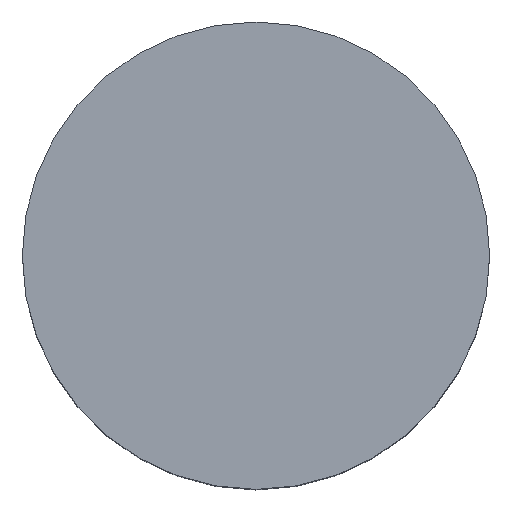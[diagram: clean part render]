
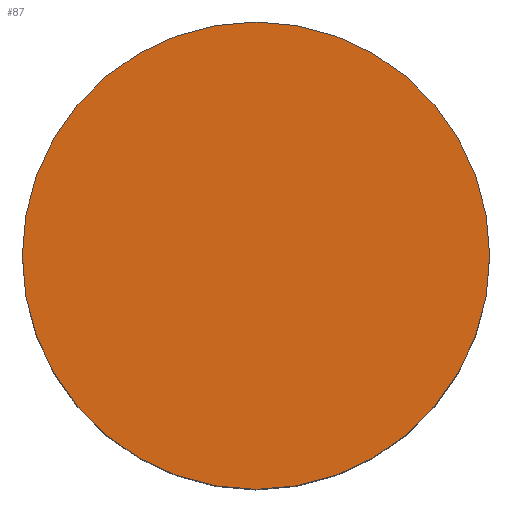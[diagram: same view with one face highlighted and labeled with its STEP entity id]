
A CAD part, top view. The second image highlights one B-rep face of the part: STEP entity #87.
In plain terms, the highlighted planar face has unit normal (0, 0, 1).
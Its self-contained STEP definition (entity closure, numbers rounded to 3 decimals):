
#87 = ADVANCED_FACE( '', ( #120 ), #121, .T. );
#120 = FACE_OUTER_BOUND( '', #163, .T. );
#121 = PLANE( '', #164 );
#163 = EDGE_LOOP( '', ( #273, #274 ) );
#164 = AXIS2_PLACEMENT_3D( '', #275, #276, #277 );
#273 = ORIENTED_EDGE( '', *, *, #337, .F. );
#274 = ORIENTED_EDGE( '', *, *, #362, .F. );
#275 = CARTESIAN_POINT( '', ( 3., 0., 0. ) );
#276 = DIRECTION( '', ( 0., 0., 1. ) );
#277 = DIRECTION( '', ( -1., 0., 0. ) );
#337 = EDGE_CURVE( '', #387, #390, #391, .T. );
#362 = EDGE_CURVE( '', #390, #387, #431, .T. );
#387 = VERTEX_POINT( '', #460 );
#390 = VERTEX_POINT( '', #464 );
#391 = CIRCLE( '', #465, 6. );
#431 = CIRCLE( '', #584, 6. );
#460 = CARTESIAN_POINT( '', ( 6., 0., 0. ) );
#464 = CARTESIAN_POINT( '', ( -6., 0., 0. ) );
#465 = AXIS2_PLACEMENT_3D( '', #613, #614, #615 );
#584 = AXIS2_PLACEMENT_3D( '', #652, #653, #654 );
#613 = CARTESIAN_POINT( '', ( 0., 0., 0. ) );
#614 = DIRECTION( '', ( 0., 0., -1. ) );
#615 = DIRECTION( '', ( 1., 0., 0. ) );
#652 = CARTESIAN_POINT( '', ( 0., 0., 0. ) );
#653 = DIRECTION( '', ( 0., 0., -1. ) );
#654 = DIRECTION( '', ( 1., 0., 0. ) );
